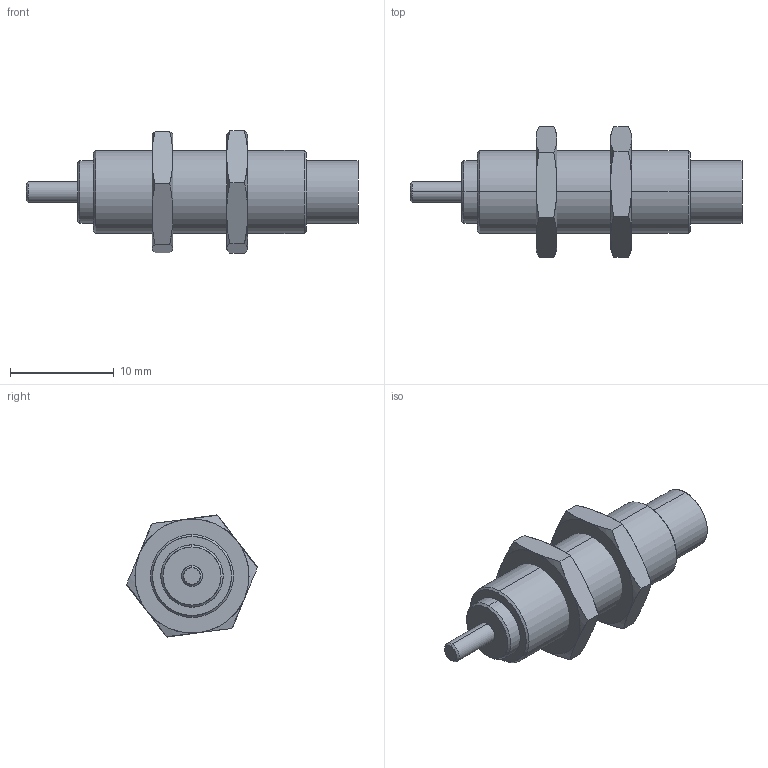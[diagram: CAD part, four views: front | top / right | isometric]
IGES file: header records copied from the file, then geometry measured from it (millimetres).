
Start section: SolidWorks IGES file using analytic representation for surfaces
Global section: file name: C:\Users\Sam Lin\Desktop\48\FSA-0805AA.IGS; native system: SolidWorks 2013; preprocessor: SolidWorks 2013; author: Sam Lin; date: 160317.153408; units: metre
Bounding box: 32 x 12.6 x 11.79 mm (x, y, z)
Surface area: 1254.2 mm2 (no closed solid volume)
Topology: 0 solids, 0 shells, 65 faces, 1024 edges, 1024 vertices
Faces by surface type: bspline 45, revolution 20
